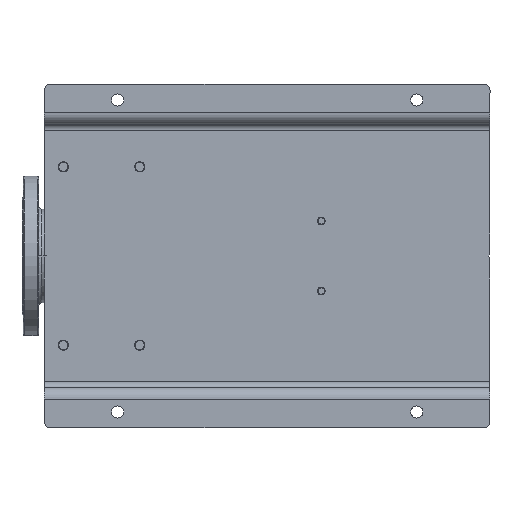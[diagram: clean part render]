
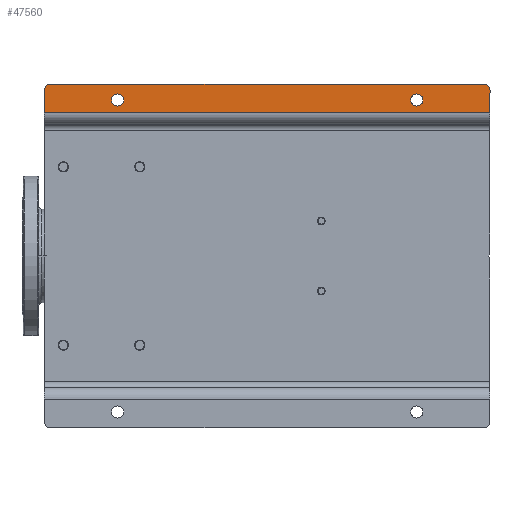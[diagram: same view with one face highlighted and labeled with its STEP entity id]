
A CAD part, front view. The second image highlights one B-rep face of the part: STEP entity #47560.
In plain terms, the highlighted planar face has unit normal (0, -1, 0).
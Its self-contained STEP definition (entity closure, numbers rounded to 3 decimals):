
#373 = AXIS2_PLACEMENT_3D ( 'NONE', #152153, #23528, #165381 ) ;
#1377 = DIRECTION ( 'NONE',  ( 0., 0., -1. ) ) ;
#1504 = DIRECTION ( 'NONE',  ( 1., 0., 0. ) ) ;
#1869 = ORIENTED_EDGE ( 'NONE', *, *, #59175, .T. ) ;
#5078 = AXIS2_PLACEMENT_3D ( 'NONE', #111627, #69040, #153251 ) ;
#9892 = VERTEX_POINT ( 'NONE', #31622 ) ;
#15573 = CARTESIAN_POINT ( 'NONE',  ( 495., 0., -700. ) ) ;
#15636 = DIRECTION ( 'NONE',  ( 0., 1., 0. ) ) ;
#17582 = ORIENTED_EDGE ( 'NONE', *, *, #158611, .F. ) ;
#21329 = CARTESIAN_POINT ( 'NONE',  ( 495., 0., -700. ) ) ;
#21781 = CARTESIAN_POINT ( 'NONE',  ( 515., 0., -594.5 ) ) ;
#21945 = ORIENTED_EDGE ( 'NONE', *, *, #107549, .T. ) ;
#23312 = VERTEX_POINT ( 'NONE', #116995 ) ;
#23528 = DIRECTION ( 'NONE',  ( 0., 1., 0. ) ) ;
#23774 = CIRCLE ( 'NONE', #117352, 10. ) ;
#26717 = FACE_BOUND ( 'NONE', #130556, .T. ) ;
#27671 = CARTESIAN_POINT ( 'NONE',  ( 540., 0., -700. ) ) ;
#28000 = VERTEX_POINT ( 'NONE', #130284 ) ;
#30860 = CIRCLE ( 'NONE', #118366, 9.5 ) ;
#31413 = DIRECTION ( 'NONE',  ( 0., 0., 1. ) ) ;
#31622 = CARTESIAN_POINT ( 'NONE',  ( 515., 0., -575.5 ) ) ;
#36372 = CARTESIAN_POINT ( 'NONE',  ( 540., 0., -690. ) ) ;
#41390 = ORIENTED_EDGE ( 'NONE', *, *, #47267, .T. ) ;
#42622 = AXIS2_PLACEMENT_3D ( 'NONE', #185525, #126003, #140193 ) ;
#44951 = VERTEX_POINT ( 'NONE', #49362 ) ;
#44976 = ORIENTED_EDGE ( 'NONE', *, *, #153171, .T. ) ;
#45482 = EDGE_CURVE ( 'NONE', #23312, #28000, #78917, .T. ) ;
#47267 = EDGE_CURVE ( 'NONE', #130597, #75642, #173463, .T. ) ;
#47560 = ADVANCED_FACE ( 'NONE', ( #168540, #26717, #141112 ), #96702, .T. ) ;
#49362 = CARTESIAN_POINT ( 'NONE',  ( 530., 0., 0. ) ) ;
#51759 = ORIENTED_EDGE ( 'NONE', *, *, #59930, .T. ) ;
#55403 = VERTEX_POINT ( 'NONE', #36372 ) ;
#55410 = DIRECTION ( 'NONE',  ( 0., 0., -1. ) ) ;
#57828 = CARTESIAN_POINT ( 'NONE',  ( 477., 0., -700. ) ) ;
#59175 = EDGE_CURVE ( 'NONE', #157290, #55403, #23774, .T. ) ;
#59930 = EDGE_CURVE ( 'NONE', #55403, #155553, #115603, .T. ) ;
#62736 = CIRCLE ( 'NONE', #111023, 10. ) ;
#62752 = CARTESIAN_POINT ( 'NONE',  ( 530., 0., -690. ) ) ;
#63520 = AXIS2_PLACEMENT_3D ( 'NONE', #173384, #73167, #170558 ) ;
#68839 = VECTOR ( 'NONE', #157107, 1000. ) ;
#68964 = EDGE_CURVE ( 'NONE', #155553, #44951, #62736, .T. ) ;
#69040 = DIRECTION ( 'NONE',  ( 0., 1., 0. ) ) ;
#73167 = DIRECTION ( 'NONE',  ( 0., 1., 0. ) ) ;
#75642 = VERTEX_POINT ( 'NONE', #21329 ) ;
#75659 = CIRCLE ( 'NONE', #63520, 9.5 ) ;
#78917 = CIRCLE ( 'NONE', #373, 9.5 ) ;
#87462 = CARTESIAN_POINT ( 'NONE',  ( 515., 0., -585. ) ) ;
#90351 = LINE ( 'NONE', #160346, #130163 ) ;
#96702 = PLANE ( 'NONE',  #42622 ) ;
#107549 = EDGE_CURVE ( 'NONE', #123085, #9892, #30860, .T. ) ;
#110319 = DIRECTION ( 'NONE',  ( 0., -1., 0. ) ) ;
#111023 = AXIS2_PLACEMENT_3D ( 'NONE', #113102, #110319, #55410 ) ;
#111627 = CARTESIAN_POINT ( 'NONE',  ( 515., 0., -585. ) ) ;
#113102 = CARTESIAN_POINT ( 'NONE',  ( 530., 0., -10. ) ) ;
#115603 = LINE ( 'NONE', #27671, #123542 ) ;
#116995 = CARTESIAN_POINT ( 'NONE',  ( 515., 0., -124.5 ) ) ;
#117352 = AXIS2_PLACEMENT_3D ( 'NONE', #62752, #162990, #122303 ) ;
#118236 = VECTOR ( 'NONE', #1377, 1000. ) ;
#118366 = AXIS2_PLACEMENT_3D ( 'NONE', #87462, #15636, #130992 ) ;
#122171 = EDGE_CURVE ( 'NONE', #28000, #23312, #75659, .T. ) ;
#122303 = DIRECTION ( 'NONE',  ( 0., 0., -1. ) ) ;
#123085 = VERTEX_POINT ( 'NONE', #21781 ) ;
#123542 = VECTOR ( 'NONE', #31413, 1000. ) ;
#126003 = DIRECTION ( 'NONE',  ( 0., -1., 0. ) ) ;
#130163 = VECTOR ( 'NONE', #1504, 1000. ) ;
#130284 = CARTESIAN_POINT ( 'NONE',  ( 515., 0., -105.5 ) ) ;
#130556 = EDGE_LOOP ( 'NONE', ( #177071, #21945 ) ) ;
#130597 = VERTEX_POINT ( 'NONE', #162365 ) ;
#130992 = DIRECTION ( 'NONE',  ( 0., 0., -1. ) ) ;
#140193 = DIRECTION ( 'NONE',  ( 0., 0., -1. ) ) ;
#141112 = FACE_OUTER_BOUND ( 'NONE', #162807, .T. ) ;
#141388 = CARTESIAN_POINT ( 'NONE',  ( 540., 0., -10. ) ) ;
#145750 = LINE ( 'NONE', #57828, #68839 ) ;
#146969 = EDGE_CURVE ( 'NONE', #9892, #123085, #168088, .T. ) ;
#147561 = CARTESIAN_POINT ( 'NONE',  ( 530., 0., -700. ) ) ;
#152153 = CARTESIAN_POINT ( 'NONE',  ( 515., 0., -115. ) ) ;
#153158 = EDGE_LOOP ( 'NONE', ( #186825, #165395 ) ) ;
#153171 = EDGE_CURVE ( 'NONE', #75642, #157290, #145750, .T. ) ;
#153251 = DIRECTION ( 'NONE',  ( 0., 0., -1. ) ) ;
#155553 = VERTEX_POINT ( 'NONE', #141388 ) ;
#157107 = DIRECTION ( 'NONE',  ( 1., 0., 0. ) ) ;
#157290 = VERTEX_POINT ( 'NONE', #147561 ) ;
#158611 = EDGE_CURVE ( 'NONE', #130597, #44951, #90351, .T. ) ;
#160346 = CARTESIAN_POINT ( 'NONE',  ( 477., 0., 0. ) ) ;
#162365 = CARTESIAN_POINT ( 'NONE',  ( 495., 0., 0. ) ) ;
#162807 = EDGE_LOOP ( 'NONE', ( #17582, #41390, #44976, #1869, #51759, #168296 ) ) ;
#162990 = DIRECTION ( 'NONE',  ( 0., -1., 0. ) ) ;
#165381 = DIRECTION ( 'NONE',  ( 0., 0., -1. ) ) ;
#165395 = ORIENTED_EDGE ( 'NONE', *, *, #45482, .T. ) ;
#168088 = CIRCLE ( 'NONE', #5078, 9.5 ) ;
#168296 = ORIENTED_EDGE ( 'NONE', *, *, #68964, .T. ) ;
#168540 = FACE_BOUND ( 'NONE', #153158, .T. ) ;
#170558 = DIRECTION ( 'NONE',  ( 0., 0., -1. ) ) ;
#173384 = CARTESIAN_POINT ( 'NONE',  ( 515., 0., -115. ) ) ;
#173463 = LINE ( 'NONE', #15573, #118236 ) ;
#177071 = ORIENTED_EDGE ( 'NONE', *, *, #146969, .T. ) ;
#185525 = CARTESIAN_POINT ( 'NONE',  ( 477., 0., -700. ) ) ;
#186825 = ORIENTED_EDGE ( 'NONE', *, *, #122171, .T. ) ;
